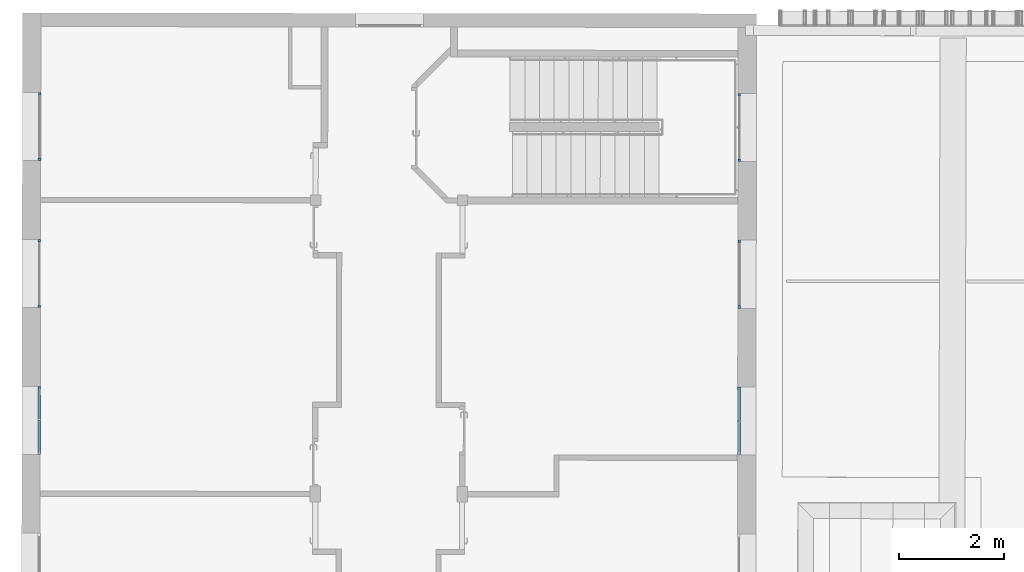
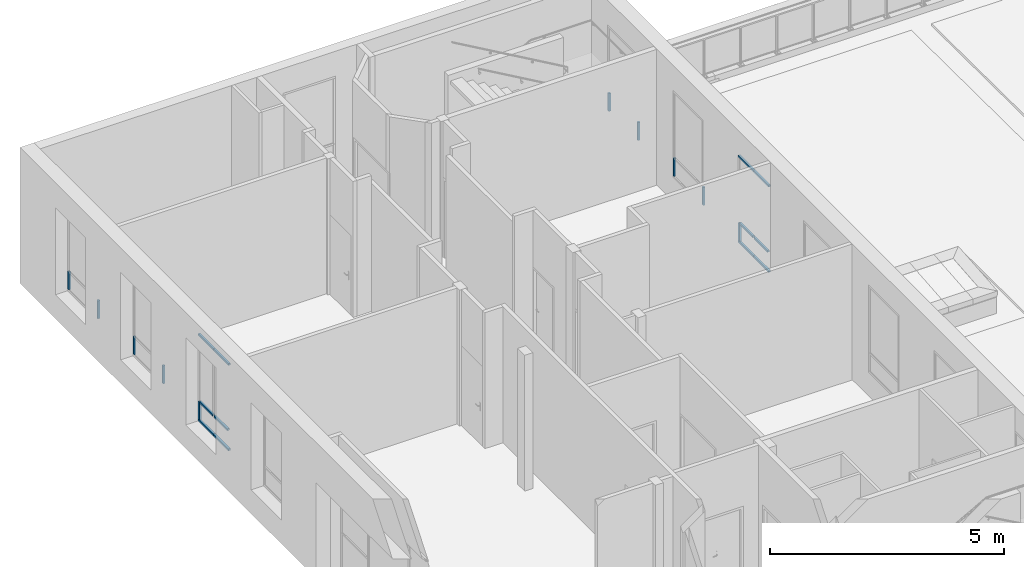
# One storey, part 25 of 101: 22 members, 6 elements without a shape of their own.
"""IFC2X3 building model written with IfcOpenShell, lengths in metres."""

from ifc_helpers import new_model, entity, si_unit, converted_unit, derived_unit, direction, frame, origin, origin_2d_with_axis, place, context, subcontext, project, spatial, rectangle, extrude, source, transform, mapped, material, type_object, type_shapes, element, aggregate, save


model = new_model("IFC2X3")

# Units and contexts
model_context = context("Model", 3, precision=1e-05, world=origin(), true_north=direction((6.123233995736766e-17, 1.0)))
body_context = subcontext(model_context, "Body", "Model", "MODEL_VIEW")
ifc_project = project(units=[si_unit("LENGTHUNIT", "METRE"), si_unit("AREAUNIT", "SQUARE_METRE"), converted_unit("PLANEANGLEUNIT", "DEGREE", entity("IfcPlaneAngleMeasure", 0.017453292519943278), si_unit("PLANEANGLEUNIT", "RADIAN"), dimensions=[0, 0, 0, 0, 0, 0, 0]), derived_unit("THERMALTRANSMITTANCEUNIT", [(si_unit("MASSUNIT", "GRAM", prefix="KILO"), 1), (si_unit("THERMODYNAMICTEMPERATUREUNIT", "KELVIN"), -1), (si_unit("TIMEUNIT", "SECOND"), -3)])], contexts=[model_context])

# Site, building, storey
site_placement = place(None, frame((1253.6752467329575, 2072.143113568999, 91.49999999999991), z_axis=(0.0, 0.0, 1.0), x_axis=(0.7237211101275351, 0.6900925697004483, 0.0)))
site = spatial("IfcSite", under=ifc_project, at=site_placement, Name="Surface", CompositionType="ELEMENT")
building_placement = place(site_placement, origin())
building = spatial("IfcBuilding", under=site, at=building_placement, CompositionType="ELEMENT")
storey_placement = place(building_placement, origin())
storey = spatial("IfcBuildingStorey", under=building, at=storey_placement, Name="0- Rdc", CompositionType="ELEMENT", Elevation=-5.764692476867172e-13)

# Curtain wall, member
curtain_wall_type = type_object("IfcCurtainWallType", Name="Mur-rideau:Menuiserie Ext 1F+1OB VERTIC", PredefinedType="NOTDEFINED")
curtain_wall_1_placement = place(storey_placement, origin())
curtain_wall_1 = element("IfcCurtainWall", 1, at=curtain_wall_1_placement, inside=storey, type_object=curtain_wall_type, Name="Mur-rideau:Menuiserie Ext 1F+1OB VERTIC", ObjectType="Mur-rideau:Menuiserie Ext 1F+1OB VERTIC")
ifc_material = material(Name="OMD_Aluminium Men Ext")
member_type_1 = type_object("IfcMemberType", Name="Meneau rectangulaire:50x50", PredefinedType="MULLION", material=ifc_material)
shared_shape_1 = source(origin(), body_context, "Body", "SweptSolid", [
    extrude(rectangle(XDim=0.05, YDim=0.049999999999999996, at=origin_2d_with_axis()), frame((-0.025, 0.0, -0.4699999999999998), z_axis=(0.0, 0.0, 1.0), x_axis=(-1.0, 0.0, 0.0)), (0.0, 0.0, 1.0), 0.4699999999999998),
])
type_shapes(member_type_1, [shared_shape_1])
member_1_placement = place(curtain_wall_1_placement, frame((161.49479533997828, 22.355475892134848, 0.6699999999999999), z_axis=(0.0, 0.0, -1.0), x_axis=(0.6911544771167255, 0.7227070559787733, 0.0)))
member_1 = element("IfcMember", 2, at=member_1_placement, type_object=member_type_1, material=ifc_material, Name="Meneau rectangulaire:50x50", ObjectType="Meneau rectangulaire:50x50", context=body_context, shape_type="MappedRepresentation", body=[
    mapped(shared_shape_1, transform((0.0, 0.0, 0.0), scale=1.0)),
])

curtain_wall_2_placement = place(storey_placement, origin())
curtain_wall_2 = element("IfcCurtainWall", 3, at=curtain_wall_2_placement, inside=storey, type_object=curtain_wall_type, Name="Mur-rideau:Menuiserie Ext 1F+1OB VERTIC", ObjectType="Mur-rideau:Menuiserie Ext 1F+1OB VERTIC")
member_2_placement = place(curtain_wall_2_placement, frame((163.4295500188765, 24.37951253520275, 0.6699999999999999), z_axis=(0.0, 0.0, -1.0), x_axis=(0.6911544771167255, 0.7227070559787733, 0.0)))
member_2 = element("IfcMember", 4, at=member_2_placement, type_object=member_type_1, material=ifc_material, Name="Meneau rectangulaire:50x50", ObjectType="Meneau rectangulaire:50x50", context=body_context, shape_type="MappedRepresentation", body=[
    mapped(shared_shape_1, transform((0.0, 0.0, 0.0), scale=1.0)),
])

curtain_wall_3_placement = place(storey_placement, origin())
curtain_wall_3 = element("IfcCurtainWall", 5, at=curtain_wall_3_placement, inside=storey, type_object=curtain_wall_type, Name="Mur-rideau:Menuiserie Ext 1F+1OB VERTIC", ObjectType="Mur-rideau:Menuiserie Ext 1F+1OB VERTIC")
member_3_placement = place(curtain_wall_3_placement, frame((165.36430469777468, 26.40354917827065, 0.6699999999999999), z_axis=(0.0, 0.0, -1.0), x_axis=(0.6911544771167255, 0.7227070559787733, 0.0)))
member_3 = element("IfcMember", 6, at=member_3_placement, type_object=member_type_1, material=ifc_material, Name="Meneau rectangulaire:50x50", ObjectType="Meneau rectangulaire:50x50", context=body_context, shape_type="MappedRepresentation", body=[
    mapped(shared_shape_1, transform((0.0, 0.0, 0.0), scale=1.0)),
])

# Member
member_type_2 = type_object("IfcMemberType", Name="Meneau rectangulaire:50x50", PredefinedType="MULLION", material=ifc_material)
shared_shape_2 = source(origin(), body_context, "Body", "SweptSolid", [
    extrude(rectangle(XDim=0.05, YDim=0.049999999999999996, at=origin_2d_with_axis()), frame((-0.025, 0.0, -0.4699999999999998), z_axis=(0.0, 0.0, 1.0), x_axis=(-1.0, 0.0, 0.0)), (0.0, 0.0, 1.0), 0.4699999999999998),
])
type_shapes(member_type_2, [shared_shape_2])
member_4_placement = place(curtain_wall_2_placement, frame((162.53125937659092, 23.440213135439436, 1.14), z_axis=(0.0, 0.0, 1.0), x_axis=(-0.6911544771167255, -0.7227070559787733, 0.0)))
member_4 = element("IfcMember", 7, at=member_4_placement, type_object=member_type_2, material=ifc_material, Name="Meneau rectangulaire:50x50", ObjectType="Meneau rectangulaire:50x50", context=body_context, shape_type="MappedRepresentation", body=[
    mapped(shared_shape_2, transform((0.0, 0.0, 0.0), scale=1.0)),
])

aggregate(curtain_wall_2, [member_2, member_4])

member_5_placement = place(curtain_wall_3_placement, frame((164.46601405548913, 25.464249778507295, 1.14), z_axis=(0.0, 0.0, 1.0), x_axis=(-0.6911544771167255, -0.7227070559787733, 0.0)))
member_5 = element("IfcMember", 8, at=member_5_placement, type_object=member_type_2, material=ifc_material, Name="Meneau rectangulaire:50x50", ObjectType="Meneau rectangulaire:50x50", context=body_context, shape_type="MappedRepresentation", body=[
    mapped(shared_shape_2, transform((0.0, 0.0, 0.0), scale=1.0)),
])

aggregate(curtain_wall_3, [member_3, member_5])

member_type_3 = type_object("IfcMemberType", Name="Meneau rectangulaire:50x50", PredefinedType="MULLION", material=ifc_material)
shared_shape_3 = source(origin(), body_context, "Body", "SweptSolid", [
    extrude(rectangle(XDim=0.05, YDim=0.05, at=origin_2d_with_axis()), frame((-0.025, 0.0, -0.6498479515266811), z_axis=(0.0, 0.0, 1.0), x_axis=(-1.0, 0.0, 0.0)), (0.0, 0.0, 1.0), 0.6498479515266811),
])
type_shapes(member_type_3, [shared_shape_3])
member_6_placement = place(curtain_wall_1_placement, frame((160.59650469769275, 21.416176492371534, 0.62), z_axis=(-0.6911544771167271, -0.7227070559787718, 0.0), x_axis=(0.0, 0.0, -1.0)))
member_6 = element("IfcMember", 9, at=member_6_placement, type_object=member_type_3, material=ifc_material, Name="Meneau rectangulaire:50x50", ObjectType="Meneau rectangulaire:50x50", context=body_context, shape_type="MappedRepresentation", body=[
    mapped(shared_shape_3, transform((0.0, 0.0, 0.0), scale=1.0)),
])

member_type_4 = type_object("IfcMemberType", Name="Meneau rectangulaire:50x50", PredefinedType="MULLION", material=ifc_material)
shared_shape_4 = source(origin(), body_context, "Body", "SweptSolid", [
    extrude(rectangle(XDim=0.05, YDim=0.05, at=origin_2d_with_axis()), frame((-0.025, 0.0, -0.6498479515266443), z_axis=(0.0, 0.0, 1.0), x_axis=(-1.0, 0.0, 0.0)), (0.0, 0.0, 1.0), 0.64984795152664),
])
type_shapes(member_type_4, [shared_shape_4])
member_7_placement = place(curtain_wall_1_placement, frame((161.04565001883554, 21.885826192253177, 0.62), z_axis=(-0.6911544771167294, -0.7227070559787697, 0.0), x_axis=(0.0, 0.0, -1.0)))
member_7 = element("IfcMember", 10, at=member_7_placement, type_object=member_type_4, material=ifc_material, Name="Meneau rectangulaire:50x50", ObjectType="Meneau rectangulaire:50x50", context=body_context, shape_type="MappedRepresentation", body=[
    mapped(shared_shape_4, transform((0.0, 0.0, 0.0), scale=1.0)),
])

member_type_5 = type_object("IfcMemberType", Name="Meneau rectangulaire:50x50", PredefinedType="MULLION", material=ifc_material)
shared_shape_5 = source(origin(), body_context, "Body", "SweptSolid", [
    extrude(rectangle(XDim=0.05, YDim=0.049999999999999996, at=origin_2d_with_axis()), frame((-0.025, 0.0, -0.6498479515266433), z_axis=(0.0, 0.0, 1.0), x_axis=(-1.0, 0.0, 0.0)), (0.0, 0.0, 1.0), 0.6498479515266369),
])
type_shapes(member_type_5, [shared_shape_5])
member_8_placement = place(curtain_wall_1_placement, frame((161.4947953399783, 22.355475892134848, 2.8999999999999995), z_axis=(0.6911544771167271, 0.7227070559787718, 0.0), x_axis=(0.0, 0.0, 1.0)))
member_8 = element("IfcMember", 11, at=member_8_placement, type_object=member_type_5, material=ifc_material, Name="Meneau rectangulaire:50x50", ObjectType="Meneau rectangulaire:50x50", context=body_context, shape_type="MappedRepresentation", body=[
    mapped(shared_shape_5, transform((0.0, 0.0, 0.0), scale=1.0)),
])

member_type_6 = type_object("IfcMemberType", Name="Meneau rectangulaire:50x50", PredefinedType="MULLION", material=ifc_material)
shared_shape_6 = source(origin(), body_context, "Body", "SweptSolid", [
    extrude(rectangle(XDim=0.05, YDim=0.05, at=origin_2d_with_axis()), frame((0.0, 0.0, -0.5748479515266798), z_axis=(0.0, 0.0, 1.0), x_axis=(-1.0, 0.0, 0.0)), (0.0, 0.0, 1.0), 0.5748479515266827),
])
type_shapes(member_type_6, [shared_shape_6])
member_9_placement = place(curtain_wall_1_placement, frame((161.0283711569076, 21.86775851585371, 1.14), z_axis=(0.6911544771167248, 0.722707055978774, 0.0), x_axis=(0.0, 0.0, 1.0)))
member_9 = element("IfcMember", 12, at=member_9_placement, type_object=member_type_6, material=ifc_material, Name="Meneau rectangulaire:50x50", ObjectType="Meneau rectangulaire:50x50", context=body_context, shape_type="MappedRepresentation", body=[
    mapped(shared_shape_6, transform((0.0, 0.0, 0.0), scale=1.0)),
])

member_10_placement = place(curtain_wall_1_placement, frame((161.46023761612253, 22.319340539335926, 1.14), z_axis=(0.6911544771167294, 0.7227070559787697, 0.0), x_axis=(0.0, 0.0, 1.0)))
member_10 = element("IfcMember", 13, at=member_10_placement, type_object=member_type_6, material=ifc_material, Name="Meneau rectangulaire:50x50", ObjectType="Meneau rectangulaire:50x50", context=body_context, shape_type="MappedRepresentation", body=[
    mapped(shared_shape_6, transform((0.0, 0.0, 0.0), scale=1.0)),
])

member_type_7 = type_object("IfcMemberType", Name="Meneau rectangulaire:50x50", PredefinedType="MULLION", material=ifc_material)
shared_shape_7 = source(origin(), body_context, "Body", "SweptSolid", [
    extrude(rectangle(XDim=0.05, YDim=0.05000000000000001, at=origin_2d_with_axis()), frame((-0.025, 0.0, -0.6498479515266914), z_axis=(0.0, 0.0, 1.0), x_axis=(-1.0, 0.0, 0.0)), (0.0, 0.0, 1.0), 0.6498479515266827),
])
type_shapes(member_type_7, [shared_shape_7])
member_11_placement = place(curtain_wall_1_placement, frame((161.04565001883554, 21.885826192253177, 2.8999999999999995), z_axis=(0.6911544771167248, 0.722707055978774, 0.0), x_axis=(0.0, 0.0, 1.0)))
member_11 = element("IfcMember", 14, at=member_11_placement, type_object=member_type_7, material=ifc_material, Name="Meneau rectangulaire:50x50", ObjectType="Meneau rectangulaire:50x50", context=body_context, shape_type="MappedRepresentation", body=[
    mapped(shared_shape_7, transform((0.0, 0.0, 0.0), scale=1.0)),
])

aggregate(curtain_wall_1, [member_8, member_6, member_1, member_9, member_11, member_7, member_10])

# Curtain wall, member
curtain_wall_4_placement = place(storey_placement, origin())
curtain_wall_4 = element("IfcCurtainWall", 15, at=curtain_wall_4_placement, inside=storey, type_object=curtain_wall_type, Name="Mur-rideau:Menuiserie Ext 1F+1OB VERTIC", ObjectType="Mur-rideau:Menuiserie Ext 1F+1OB VERTIC")
member_type_8 = type_object("IfcMemberType", Name="Meneau rectangulaire:50x50", PredefinedType="MULLION", material=ifc_material)
shared_shape_8 = source(origin(), body_context, "Body", "SweptSolid", [
    extrude(rectangle(XDim=0.05, YDim=0.049999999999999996, at=origin_2d_with_axis()), frame((-0.025, 0.0, -0.4699999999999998), z_axis=(0.0, 0.0, 1.0), x_axis=(-1.0, 0.0, 0.0)), (0.0, 0.0, 1.0), 0.4699999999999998),
])
type_shapes(member_type_8, [shared_shape_8])
member_12_placement = place(curtain_wall_4_placement, frame((175.0059086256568, 17.187244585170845, 0.6699999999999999), z_axis=(0.0, 0.0, -1.0), x_axis=(0.6909838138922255, 0.722870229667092, 0.0)))
member_12 = element("IfcMember", 16, at=member_12_placement, type_object=member_type_8, material=ifc_material, Name="Meneau rectangulaire:50x50", ObjectType="Meneau rectangulaire:50x50", context=body_context, shape_type="MappedRepresentation", body=[
    mapped(shared_shape_8, transform((0.0, 0.0, 0.0), scale=1.0)),
])

curtain_wall_5_placement = place(storey_placement, origin())
curtain_wall_5 = element("IfcCurtainWall", 17, at=curtain_wall_5_placement, inside=storey, type_object=curtain_wall_type, Name="Mur-rideau:Menuiserie Ext 1F+1OB VERTIC", ObjectType="Mur-rideau:Menuiserie Ext 1F+1OB VERTIC")
member_13_placement = place(curtain_wall_5_placement, frame((173.07389250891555, 15.166072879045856, 0.6699999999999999), z_axis=(0.0, 0.0, -1.0), x_axis=(0.6909838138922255, 0.722870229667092, 0.0)))
member_13 = element("IfcMember", 18, at=member_13_placement, type_object=member_type_8, material=ifc_material, Name="Meneau rectangulaire:50x50", ObjectType="Meneau rectangulaire:50x50", context=body_context, shape_type="MappedRepresentation", body=[
    mapped(shared_shape_8, transform((0.0, 0.0, 0.0), scale=1.0)),
])

curtain_wall_6_placement = place(storey_placement, origin())
curtain_wall_6 = element("IfcCurtainWall", 19, at=curtain_wall_6_placement, inside=storey, type_object=curtain_wall_type, Name="Mur-rideau:Menuiserie Ext 1F+1OB VERTIC", ObjectType="Mur-rideau:Menuiserie Ext 1F+1OB VERTIC")
member_14_placement = place(curtain_wall_6_placement, frame((171.13913783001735, 13.14203623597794, 0.6699999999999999), z_axis=(0.0, 0.0, -1.0), x_axis=(0.6909838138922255, 0.722870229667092, 0.0)))
member_14 = element("IfcMember", 20, at=member_14_placement, type_object=member_type_8, material=ifc_material, Name="Meneau rectangulaire:50x50", ObjectType="Meneau rectangulaire:50x50", context=body_context, shape_type="MappedRepresentation", body=[
    mapped(shared_shape_8, transform((0.0, 0.0, 0.0), scale=1.0)),
])

# Member
member_type_9 = type_object("IfcMemberType", Name="Meneau rectangulaire:50x50", PredefinedType="MULLION", material=ifc_material)
shared_shape_9 = source(origin(), body_context, "Body", "SweptSolid", [
    extrude(rectangle(XDim=0.05, YDim=0.05000000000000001, at=origin_2d_with_axis()), frame((-0.025, 0.0, -0.4699999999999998), z_axis=(0.0, 0.0, 1.0), x_axis=(-1.0, 0.0, 0.0)), (0.0, 0.0, 1.0), 0.4699999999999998),
])
type_shapes(member_type_9, [shared_shape_9])
member_15_placement = place(curtain_wall_4_placement, frame((174.1078397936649, 16.247733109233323, 1.14), z_axis=(0.0, 0.0, 1.0), x_axis=(-0.6909838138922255, -0.722870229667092, 0.0)))
member_15 = element("IfcMember", 21, at=member_15_placement, type_object=member_type_9, material=ifc_material, Name="Meneau rectangulaire:50x50", ObjectType="Meneau rectangulaire:50x50", context=body_context, shape_type="MappedRepresentation", body=[
    mapped(shared_shape_9, transform((0.0, 0.0, 0.0), scale=1.0)),
])

aggregate(curtain_wall_4, [member_12, member_15])

member_16_placement = place(curtain_wall_5_placement, frame((172.17582367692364, 14.22656140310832, 1.14), z_axis=(0.0, 0.0, 1.0), x_axis=(-0.6909838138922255, -0.722870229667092, 0.0)))
member_16 = element("IfcMember", 22, at=member_16_placement, type_object=member_type_9, material=ifc_material, Name="Meneau rectangulaire:50x50", ObjectType="Meneau rectangulaire:50x50", context=body_context, shape_type="MappedRepresentation", body=[
    mapped(shared_shape_9, transform((0.0, 0.0, 0.0), scale=1.0)),
])

aggregate(curtain_wall_5, [member_13, member_16])

member_type_10 = type_object("IfcMemberType", Name="Meneau rectangulaire:50x50", PredefinedType="MULLION", material=ifc_material)
shared_shape_10 = source(origin(), body_context, "Body", "SweptSolid", [
    extrude(rectangle(XDim=0.05, YDim=0.049999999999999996, at=origin_2d_with_axis()), frame((-0.025, 0.0, -0.6498479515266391), z_axis=(0.0, 0.0, 1.0), x_axis=(-1.0, 0.0, 0.0)), (0.0, 0.0, 1.0), 0.649847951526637),
])
type_shapes(member_type_10, [shared_shape_10])
member_17_placement = place(curtain_wall_6_placement, frame((171.1391378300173, 13.142036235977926, 2.8999999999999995), z_axis=(0.6909838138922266, 0.7228702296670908, 0.0), x_axis=(0.0, 0.0, 1.0)))
member_17 = element("IfcMember", 23, at=member_17_placement, type_object=member_type_10, material=ifc_material, Name="Meneau rectangulaire:50x50", ObjectType="Meneau rectangulaire:50x50", context=body_context, shape_type="MappedRepresentation", body=[
    mapped(shared_shape_10, transform((0.0, 0.0, 0.0), scale=1.0)),
])

member_type_11 = type_object("IfcMemberType", Name="Meneau rectangulaire:50x50", PredefinedType="MULLION", material=ifc_material)
shared_shape_11 = source(origin(), body_context, "Body", "SweptSolid", [
    extrude(rectangle(XDim=0.05, YDim=0.049999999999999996, at=origin_2d_with_axis()), frame((-0.025, 0.0, -0.6498479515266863), z_axis=(0.0, 0.0, 1.0), x_axis=(-1.0, 0.0, 0.0)), (0.0, 0.0, 1.0), 0.6498479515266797),
])
type_shapes(member_type_11, [shared_shape_11])
member_18_placement = place(curtain_wall_6_placement, frame((170.2410689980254, 12.202524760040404, 0.62), z_axis=(-0.6909838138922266, -0.7228702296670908, 0.0), x_axis=(0.0, 0.0, -1.0)))
member_18 = element("IfcMember", 24, at=member_18_placement, type_object=member_type_11, material=ifc_material, Name="Meneau rectangulaire:50x50", ObjectType="Meneau rectangulaire:50x50", context=body_context, shape_type="MappedRepresentation", body=[
    mapped(shared_shape_11, transform((0.0, 0.0, 0.0), scale=1.0)),
])

member_type_12 = type_object("IfcMemberType", Name="Meneau rectangulaire:50x50", PredefinedType="MULLION", material=ifc_material)
shared_shape_12 = source(origin(), body_context, "Body", "SweptSolid", [
    extrude(rectangle(XDim=0.05, YDim=0.05, at=origin_2d_with_axis()), frame((0.0, 0.0, -0.5748479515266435), z_axis=(0.0, 0.0, 1.0), x_axis=(-1.0, 0.0, 0.0)), (0.0, 0.0, 1.0), 0.5748479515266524),
])
type_shapes(member_type_12, [shared_shape_12])
member_19_placement = place(curtain_wall_6_placement, frame((170.67282881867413, 12.654208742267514, 1.14), z_axis=(0.6909838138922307, 0.7228702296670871, 0.0), x_axis=(0.0, 0.0, 1.0)))
member_19 = element("IfcMember", 25, at=member_19_placement, type_object=member_type_12, material=ifc_material, Name="Meneau rectangulaire:50x50", ObjectType="Meneau rectangulaire:50x50", context=body_context, shape_type="MappedRepresentation", body=[
    mapped(shared_shape_12, transform((0.0, 0.0, 0.0), scale=1.0)),
])

member_20_placement = place(curtain_wall_6_placement, frame((171.10458863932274, 13.10589272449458, 1.14), z_axis=(0.6909838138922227, 0.7228702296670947, 0.0), x_axis=(0.0, 0.0, 1.0)))
member_20 = element("IfcMember", 26, at=member_20_placement, type_object=member_type_12, material=ifc_material, Name="Meneau rectangulaire:50x50", ObjectType="Meneau rectangulaire:50x50", context=body_context, shape_type="MappedRepresentation", body=[
    mapped(shared_shape_12, transform((0.0, 0.0, 0.0), scale=1.0)),
])

member_type_13 = type_object("IfcMemberType", Name="Meneau rectangulaire:50x50", PredefinedType="MULLION", material=ifc_material)
shared_shape_13 = source(origin(), body_context, "Body", "SweptSolid", [
    extrude(rectangle(XDim=0.05, YDim=0.05, at=origin_2d_with_axis()), frame((-0.025, 0.0, -0.6498479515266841), z_axis=(0.0, 0.0, 1.0), x_axis=(-1.0, 0.0, 0.0)), (0.0, 0.0, 1.0), 0.6498479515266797),
])
type_shapes(member_type_13, [shared_shape_13])
member_21_placement = place(curtain_wall_6_placement, frame((170.69010341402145, 12.6722804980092, 2.8999999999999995), z_axis=(0.6909838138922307, 0.7228702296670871, 0.0), x_axis=(0.0, 0.0, 1.0)))
member_21 = element("IfcMember", 27, at=member_21_placement, type_object=member_type_13, material=ifc_material, Name="Meneau rectangulaire:50x50", ObjectType="Meneau rectangulaire:50x50", context=body_context, shape_type="MappedRepresentation", body=[
    mapped(shared_shape_13, transform((0.0, 0.0, 0.0), scale=1.0)),
])

member_type_14 = type_object("IfcMemberType", Name="Meneau rectangulaire:50x50", PredefinedType="MULLION", material=ifc_material)
shared_shape_14 = source(origin(), body_context, "Body", "SweptSolid", [
    extrude(rectangle(XDim=0.05, YDim=0.049999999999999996, at=origin_2d_with_axis()), frame((-0.025, 0.0, -0.6498479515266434), z_axis=(0.0, 0.0, 1.0), x_axis=(-1.0, 0.0, 0.0)), (0.0, 0.0, 1.0), 0.649847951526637),
])
type_shapes(member_type_14, [shared_shape_14])
member_22_placement = place(curtain_wall_6_placement, frame((170.69010341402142, 12.672280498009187, 0.62), z_axis=(-0.6909838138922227, -0.7228702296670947, 0.0), x_axis=(0.0, 0.0, -1.0)))
member_22 = element("IfcMember", 28, at=member_22_placement, type_object=member_type_14, material=ifc_material, Name="Meneau rectangulaire:50x50", ObjectType="Meneau rectangulaire:50x50", context=body_context, shape_type="MappedRepresentation", body=[
    mapped(shared_shape_14, transform((0.0, 0.0, 0.0), scale=1.0)),
])

aggregate(curtain_wall_6, [member_17, member_18, member_14, member_19, member_21, member_22, member_20])

save(model, "model.ifc")
